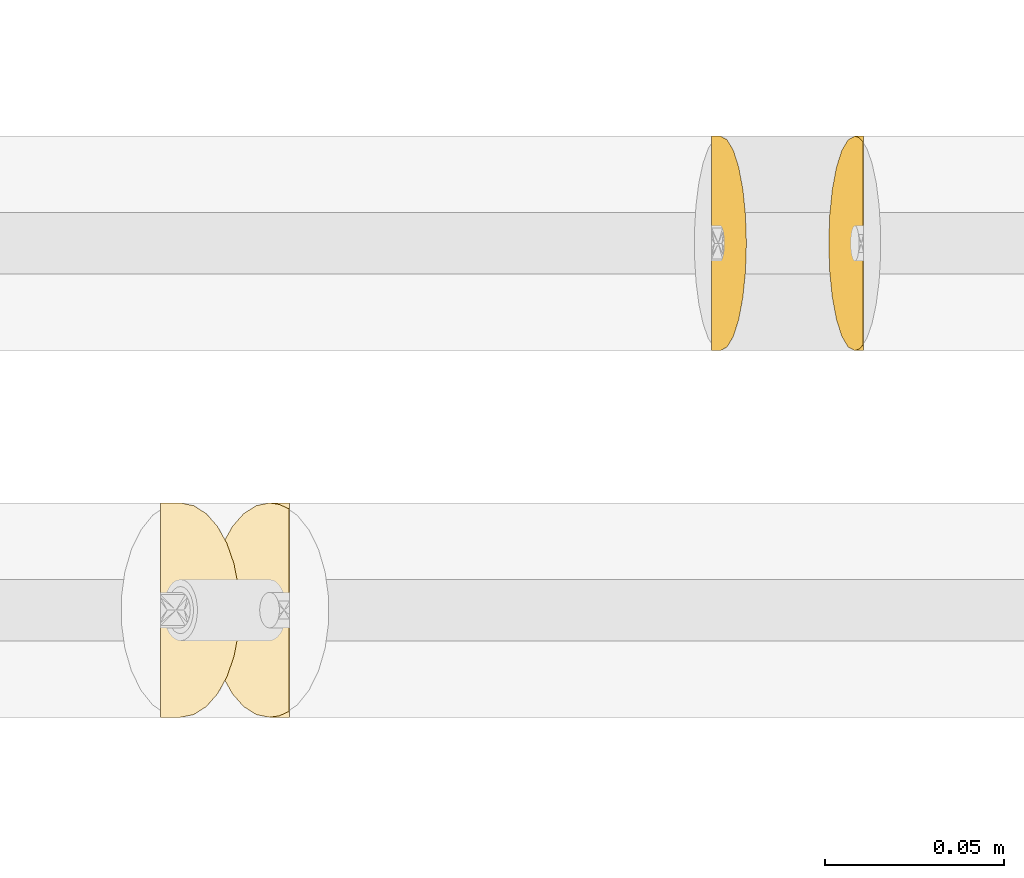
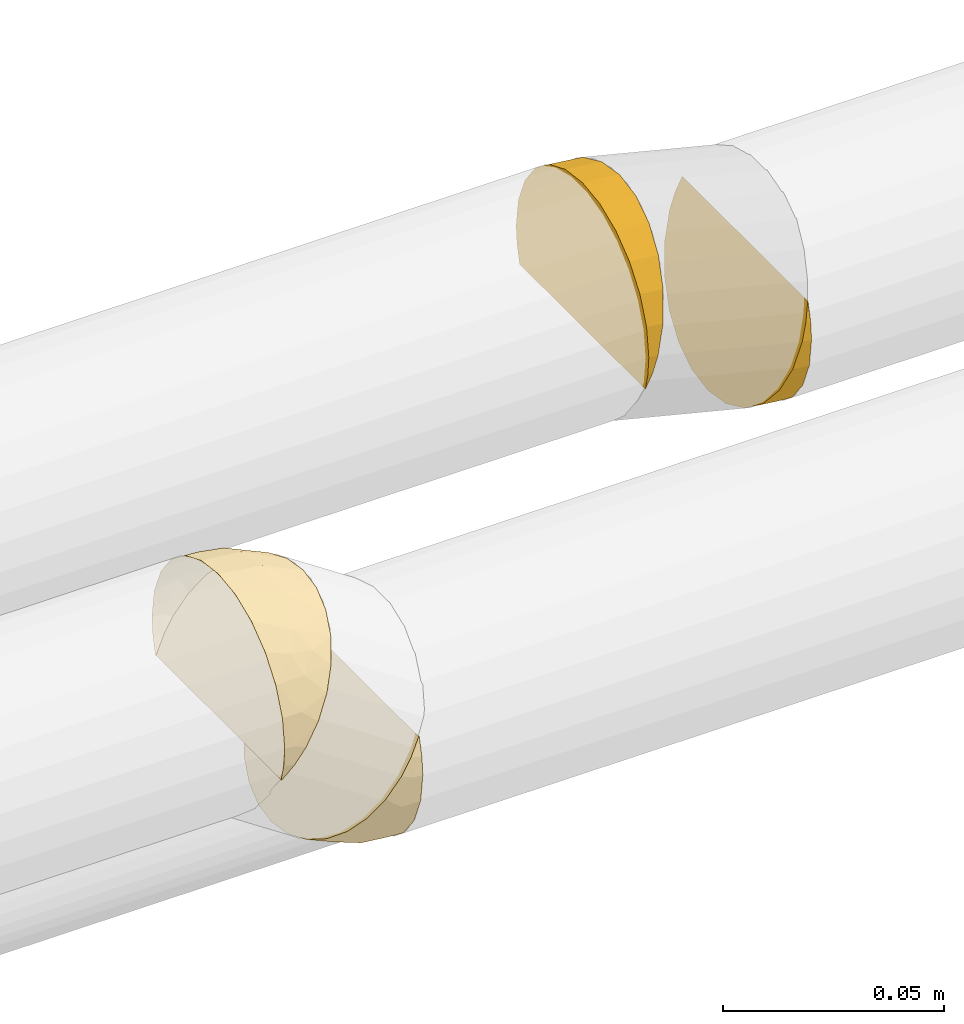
# One storey, part 9 of 156: 4 coverings.
"""IFC2X3 building model written with IfcOpenShell, lengths in millimetres."""

from ifc_helpers import new_model, entity, si_unit, converted_unit, derived_unit, direction, frame, origin_with_axes, place, context, subcontext, project, spatial, open_shell, surface_model, source, transform, mapped, element, save


model = new_model("IFC2X3")

# Units and contexts
model_context = context("Model", 3, precision=0.01, world=frame((0.0, 4.29681676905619e-09, 0.0)), true_north=direction((4.01073788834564e-13, 1.0)))
plan_context = context("Plan", 3, precision=0.01, world=frame((0.0, 4.29681676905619e-09, 0.0)), true_north=direction((4.01073788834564e-13, 1.0)))
body_context = subcontext(model_context, "Body", "Model", "MODEL_VIEW")
ifc_project = project(units=[converted_unit("PLANEANGLEUNIT", "DEGREE", entity("IfcPositiveLengthMeasure", 0.0174532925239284), si_unit("PLANEANGLEUNIT", "RADIAN"), dimensions=[0, 0, 0, 0, 0, 0, 0]), si_unit("AREAUNIT", "SQUARE_METRE"), si_unit("LENGTHUNIT", "METRE", prefix="MILLI"), si_unit("MASSUNIT", "GRAM", prefix="KILO"), si_unit("POWERUNIT", "WATT"), si_unit("PRESSUREUNIT", "PASCAL", prefix="KILO"), si_unit("FORCEUNIT", "NEWTON", prefix="KILO"), si_unit("ELECTRICVOLTAGEUNIT", "VOLT"), si_unit("ELECTRICCURRENTUNIT", "AMPERE"), si_unit("THERMODYNAMICTEMPERATUREUNIT", "DEGREE_CELSIUS"), si_unit("TIMEUNIT", "SECOND"), si_unit("VOLUMEUNIT", "CUBIC_METRE"), derived_unit("LINEARVELOCITYUNIT", [(si_unit("LENGTHUNIT", "METRE"), 1), (si_unit("TIMEUNIT", "SECOND"), -1)]), derived_unit("VOLUMETRICFLOWRATEUNIT", [(si_unit("VOLUMEUNIT", "CUBIC_METRE"), 1), (si_unit("TIMEUNIT", "SECOND"), -1)]), derived_unit("THERMALTRANSMITTANCEUNIT", [(si_unit("POWERUNIT", "WATT"), 1), (si_unit("THERMODYNAMICTEMPERATUREUNIT", "KELVIN"), -1), (si_unit("AREAUNIT", "SQUARE_METRE"), -1)]), derived_unit("SOUNDPRESSUREUNIT", [(si_unit("PRESSUREUNIT", "PASCAL"), 1)])], contexts=[model_context, plan_context])

# Site, building, storey
site_placement = place(None, frame((0.0, -4.29681676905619e-09, 0.0), z_axis=(0.0, 0.0, 1.0), x_axis=(1.0, 0.0, 0.0)))
site = spatial("IfcSite", under=ifc_project, at=site_placement, CompositionType="ELEMENT")
building_placement = place(site_placement, frame((0.0, 4.29681676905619e-09, 0.0), z_axis=(0.0, 0.0, 1.0), x_axis=(1.0, 0.0, 0.0)))
building = spatial("IfcBuilding", under=site, at=building_placement, Name="mc-building", CompositionType="ELEMENT")
storey_placement = place(building_placement, frame((0.0, 0.0, 205200.0), z_axis=(0.0, 0.0, 1.0), x_axis=(1.0, 0.0, 0.0)))
storey = spatial("IfcBuildingStorey", under=building, at=storey_placement, Name="Nivå D + 1,2 m", CompositionType="ELEMENT", Elevation=205200.0)

# Coverings
shared_shape_1 = source(origin_with_axes(), body_context, "Body", "SurfaceModel", [
    surface_model("IfcShellBasedSurfaceModel", [(-2.87059, 9.76425, -28.38286), (-2.87059, 9.76425, 28.38286), (-0.20967, 5.77287, 29.59387), (2.51925, 1.6795, 30.0), (6.22407, -3.87774, 29.24708), (-0.21581, 5.78208, -29.59203), (2.51925, 1.6795, -30.0), (6.2201, -3.87179, -29.24871), (9.7371, -9.14728, -27.03116), (12.89232, -13.88011, -23.45843), (9.74213, -9.15483, 27.02679), (12.89728, -13.88756, 23.45129), (15.53164, -17.83909, 18.70033), (17.51343, -20.81178, 13.01217), (17.51101, -20.80815, -13.02124), (19.16025, -23.28201, 0.0), (18.74351, -22.6569, 6.67182), (15.52768, -17.83316, -18.70927), (18.7426, -22.65554, -6.67896), (-2.94565, 9.72882, -28.38286), (0.81593, 4.23447, -29.74593), (-3.02776, 4.92516, -29.59295), (-3.02776, 6.72926, -29.13732), (-0.12991, 0.42908, -30.0), (-3.02776, 0.0, -30.0), (-3.02776, 9.71666, -28.38286), (8.80215, -18.06569, -21.94335), (4.7303, -14.77005, -25.40449), (-3.02776, -15.0, -25.98076), (2.8081, -19.48144, -22.31271), (2.04004, -7.59631, -28.82565), (-3.02776, -7.76457, -28.97778), (-3.02776, -21.2132, -21.2132), (6.30461, -22.48673, -18.26284), (-3.02776, -25.98076, -15.0), (-3.02776, -30.0, 0.0), (-3.02776, -28.97778, -7.76457), (8.56361, -28.28368, 0.0), (8.29277, -26.60451, -9.91246), (-3.02776, -25.98076, 15.0), (3.2468, -21.69766, 20.0535), (-3.02776, -21.2132, 21.2132), (-3.02776, -28.97778, 7.76457), (7.55415, -23.78611, 15.95655), (7.71741, -27.30915, 8.31155), (9.37947, -19.43533, 20.45701), (4.77563, -17.16423, 23.8006), (2.85556, -9.02348, 28.31507), (-3.02776, -15.0, 25.98076), (-0.12991, 0.42908, 30.0), (-3.02776, -7.76457, 28.97778), (-3.02776, 0.0, 30.0), (-1.21344, 7.27853, 29.13704), (-3.02776, 4.92516, 29.59295), (-3.02776, 3.07073, 29.74622), (-2.94565, 9.72882, 28.38286), (-3.02776, 9.71666, 28.38286)], [open_shell([[[0, 1, 2]], [[3, 4, 2]], [[0, 2, 4]], [[5, 0, 6]], [[0, 7, 6]], [[7, 0, 8]], [[8, 0, 9]], [[0, 4, 10]], [[10, 11, 12]], [[0, 13, 14]], [[12, 13, 0]], [[15, 13, 16]], [[17, 9, 14]], [[13, 18, 14]], [[9, 0, 14]], [[15, 18, 13]], [[12, 0, 10]], [[5, 19, 0]], [[20, 21, 5]], [[5, 22, 19]], [[23, 24, 21]], [[21, 20, 23]], [[20, 6, 23]], [[25, 19, 22]], [[21, 22, 5]], [[26, 27, 9]], [[28, 27, 29]], [[30, 28, 31]], [[32, 33, 34]], [[31, 23, 30]], [[33, 17, 14]], [[35, 36, 37]], [[28, 30, 27]], [[38, 37, 36]], [[34, 33, 38]], [[34, 38, 36]], [[27, 26, 29]], [[31, 24, 23]], [[8, 9, 27]], [[8, 27, 30]], [[17, 26, 9]], [[6, 7, 23]], [[7, 30, 23]], [[17, 33, 26]], [[33, 29, 26]], [[15, 37, 18]], [[37, 38, 18]], [[28, 29, 32]], [[14, 18, 38]], [[29, 33, 32]], [[14, 38, 33]], [[30, 7, 8]], [[39, 40, 41]], [[42, 35, 37]], [[43, 40, 39]], [[42, 37, 44]], [[11, 45, 12]], [[40, 46, 41]], [[46, 47, 48]], [[48, 41, 46]], [[49, 47, 4]], [[16, 44, 37]], [[50, 49, 51]], [[16, 13, 44]], [[11, 46, 45]], [[13, 12, 43]], [[39, 44, 43]], [[43, 44, 13]], [[46, 40, 45]], [[48, 47, 50]], [[10, 4, 47]], [[10, 47, 46]], [[4, 3, 49]], [[46, 11, 10]], [[43, 45, 40]], [[50, 47, 49]], [[44, 39, 42]], [[45, 43, 12]], [[16, 37, 15]], [[2, 49, 3]], [[52, 53, 2]], [[2, 54, 49]], [[55, 56, 53]], [[53, 52, 55]], [[52, 1, 55]], [[51, 49, 54]], [[53, 54, 2]]])]),
])
for number, where, z_axis, x_axis in (
    (1, (325575.0, 458928.61963, 4236.68835000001), (0.0, 1.0, 0.0), (1.0, 0.0, 0.0)),
    (2, (325605.0, 458928.61963, 4216.68835000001), (0.0, 1.0, 0.0), (-1.0, 0.0, 0.0)),
):
    element("IfcCovering", number, at=place(storey_placement, frame(where, z_axis=z_axis, x_axis=x_axis)), inside=storey, Name="BI10T - Cellegummi 18-32 mm kalde rør", PredefinedType="INSULATION", context=body_context, shape_type="MappedRepresentation", body=[
        mapped(shared_shape_1, transform((0.0, 0.0, 0.0), scale=1.0)),
    ])
shared_shape_2 = source(origin_with_axes(), body_context, "Body", "SurfaceModel", [
    surface_model("IfcShellBasedSurfaceModel", [(-1.23106, 9.71666, 28.38286), (-1.23106, 9.71666, -28.38286), (-1.23106, 4.92516, -29.59295), (-1.23106, 0.0, -30.0), (-1.23106, -7.76457, -28.97778), (-1.23106, 4.92516, 29.59295), (-1.23106, -7.76457, 28.97778), (-1.23106, 0.0, 30.0), (-1.23106, -15.0, -25.98076), (-1.23106, -21.2132, -21.2132), (-1.23106, -25.98076, -15.0), (-1.23106, -25.98076, 15.0), (-1.23106, -28.97778, -7.76457), (-1.23106, -21.2132, 21.2132), (-1.23106, -15.0, 25.98076), (-1.23106, -28.97778, 7.76457), (-1.23106, -30.0, 0.0), (-0.00023, 5.07668, -29.59295), (-1.16439, 9.73333, -28.38286), (-1.16234, 9.72512, 28.38286), (3.07749, -7.23417, -28.97778), (1.1943, 0.29857, -30.0), (3.07749, -7.23417, 28.97778), (-0.00023, 5.07668, 29.59295), (1.1943, 0.29857, 30.0), (4.83233, -14.25356, -25.98076), (7.49556, -24.90647, -15.0), (6.33926, -20.28125, -21.2132), (7.49556, -24.90647, 15.0), (8.22244, -27.814, -7.76457), (4.83233, -14.25356, 25.98076), (6.33926, -20.28125, 21.2132), (8.22244, -27.814, 7.76457), (8.47037, -28.8057, 0.0), (-0.00922, 0.07492, -30.0), (-1.16234, 9.72512, -28.38286), (3.65627, -29.7003, 0.0), (-0.00922, 0.07492, 30.0), (-0.68843, 7.67105, 28.91635), (-1.23106, 6.72926, 29.13732), (0.44954, 3.27762, 29.74622), (-1.23106, 3.07073, 29.74622)], [open_shell([[[0, 1, 2]], [[3, 4, 2]], [[0, 2, 4]], [[5, 0, 6]], [[6, 7, 5]], [[0, 4, 6]], [[4, 8, 6]], [[8, 9, 10]], [[8, 10, 11]], [[11, 10, 12]], [[6, 13, 14]], [[8, 11, 13]], [[15, 11, 12]], [[12, 16, 15]], [[13, 6, 8]], [[17, 18, 19]], [[17, 20, 21]], [[20, 17, 19]], [[22, 19, 23]], [[23, 24, 22]], [[22, 20, 19]], [[22, 25, 20]], [[26, 27, 25]], [[28, 26, 25]], [[29, 26, 28]], [[30, 31, 22]], [[31, 28, 25]], [[29, 28, 32]], [[32, 33, 29]], [[25, 22, 31]], [[3, 2, 34]], [[34, 2, 17]], [[17, 21, 34]], [[17, 2, 35]], [[4, 3, 34]], [[9, 8, 25]], [[4, 25, 8]], [[12, 10, 26]], [[10, 9, 26]], [[16, 12, 36]], [[20, 4, 34]], [[25, 27, 9]], [[20, 25, 4]], [[26, 9, 27]], [[12, 29, 36]], [[12, 26, 29]], [[29, 33, 36]], [[20, 34, 21]], [[11, 28, 13]], [[13, 30, 14]], [[28, 11, 15]], [[7, 6, 37]], [[6, 22, 37]], [[14, 30, 6]], [[15, 16, 36]], [[28, 31, 13]], [[15, 32, 28]], [[33, 32, 36]], [[6, 30, 22]], [[37, 22, 24]], [[13, 31, 30]], [[15, 36, 32]], [[38, 39, 5]], [[37, 40, 41]], [[23, 5, 40]], [[40, 5, 41]], [[37, 24, 40]], [[38, 0, 39]], [[41, 7, 37]], [[5, 23, 38]]])]),
])
for number, where, z_axis, x_axis in (
    (3, (325767.5, 459031.28638, 4218.32044000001), (0.0, 1.0, 0.0), (-1.0, 0.0, 0.0)),
    (4, (325727.5, 459031.28638, 4228.32044000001), (0.0, 1.0, 0.0), (1.0, 0.0, 0.0)),
):
    element("IfcCovering", number, at=place(storey_placement, frame(where, z_axis=z_axis, x_axis=x_axis)), inside=storey, Name="BI10T - Cellegummi 18-32 mm kalde rør", PredefinedType="INSULATION", context=body_context, shape_type="MappedRepresentation", body=[
        mapped(shared_shape_2, transform((0.0, 0.0, 0.0), scale=1.0)),
    ])

save(model, "model.ifc")
